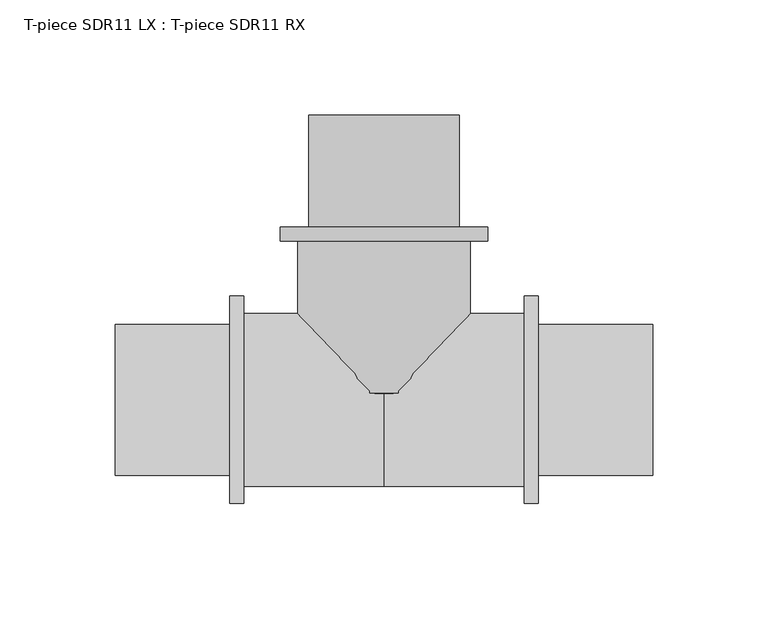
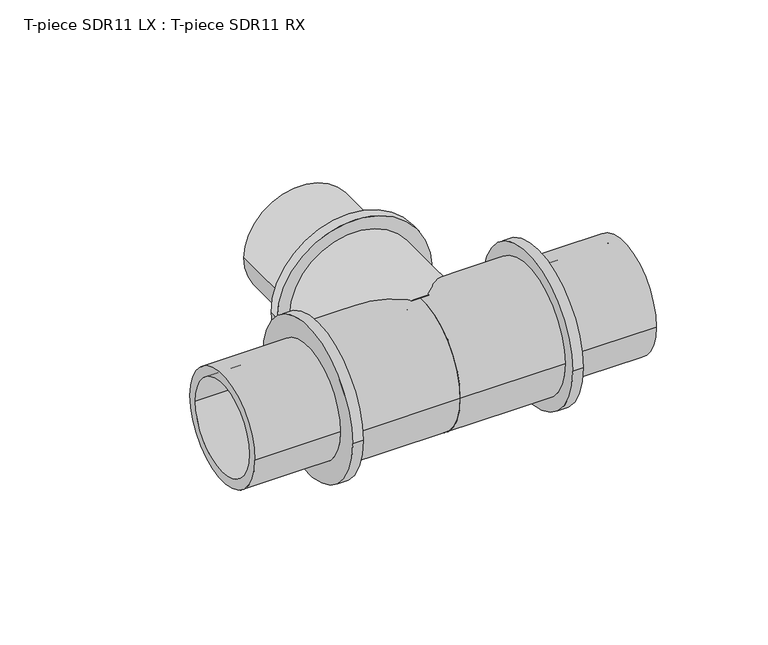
"""IFC4 building model written with IfcOpenShell, lengths in millimetres: pipe fitting geometry, T-piece SDR11 LX : T-piece SDR11 RX."""

from ifc_helpers import new_model, si_unit, point, frame, origin, place, context, project, spatial, polyline, circle_curve, ellipse_curve, trimmed, source, transform, mapped, element, save
from ifc_brep_helpers import plane_surface, cylinder_surface, revolved_surface, advanced_brep


def t_piece_sdr11_lx_t_piece_sdr11_rx_ffd7d234(model_context):
    return source(origin(), model_context, "Body", "AdvancedBrep", [
        advanced_brep(
        [(37.5, 2.9400082, 0.0), (-37.5, 2.9400082, 0.0), (-37.5, 68.8, 0.0), (37.5, 68.8, 0.0), (27.0, 123.5, 0.0), (-27.0, 123.5, 0.0), (-27.0, 0.0, 0.0), (27.0, 0.0, 0.0), (32.7, 74.9, 0.0), (-32.7, 74.9, 0.0), (-32.7, 123.5, 0.0), (32.7, 123.5, 0.0), (45.0, 68.8, 0.0), (-45.0, 68.8, 0.0), (-45.0, 74.9, 0.0), (45.0, 74.9, 0.0)],
        [
            (0, 1, circle_curve(frame((0.0, 2.9400082, 0.0), z_axis=(0.0, 1.0, 0.0), x_axis=(-1.0, 0.0, 0.0)), 37.5)),
            (1, 2),
            (2, 3, circle_curve(frame((0.0, 68.8, 0.0), z_axis=(0.0, -1.0, 0.0), x_axis=(-1.0, 0.0, 0.0)), 37.5)),
            (3, 0),
            (4, 5, circle_curve(frame((0.0, 123.5, 0.0), z_axis=(0.0, 1.0, 0.0), x_axis=(-1.0, 0.0, 0.0)), 27.0)),
            (5, 6),
            (6, 7, circle_curve(frame((0.0, 0.0, 0.0), z_axis=(0.0, -1.0, 0.0), x_axis=(-1.0, 0.0, 0.0)), 27.0)),
            (7, 4),
            (8, 9, circle_curve(frame((0.0, 74.9, 0.0), z_axis=(0.0, 1.0, 0.0), x_axis=(-1.0, 0.0, 0.0)), 32.7)),
            (9, 10),
            (10, 11, circle_curve(frame((0.0, 123.5, 0.0), z_axis=(0.0, -1.0, 0.0), x_axis=(-1.0, 0.0, 0.0)), 32.7)),
            (11, 8),
            (12, 13, circle_curve(frame((0.0, 68.8, 0.0), z_axis=(0.0, 1.0, 0.0), x_axis=(-1.0, 0.0, 0.0)), 45.0)),
            (13, 14),
            (14, 15, circle_curve(frame((0.0, 74.9, 0.0), z_axis=(0.0, -1.0, 0.0), x_axis=(-1.0, 0.0, 0.0)), 45.0)),
            (15, 12),
            (12, 13, circle_curve(frame((0.0, 68.8, 0.0), z_axis=(0.0, -1.0, 0.0), x_axis=(1.0, 0.0, 0.0)), 45.0)),
            (2, 3, circle_curve(frame((0.0, 68.8, 0.0), z_axis=(0.0, 1.0, 0.0), x_axis=(1.0, 0.0, 0.0)), 37.5)),
            (1, 0, circle_curve(frame((0.0, 2.9400082, 0.0), z_axis=(0.0, 1.0, 0.0), x_axis=(1.0, 0.0, 0.0)), 37.5)),
            (5, 4, circle_curve(frame((0.0, 123.5, 0.0), z_axis=(0.0, 1.0, 0.0), x_axis=(1.0, 0.0, 0.0)), 27.0)),
            (7, 6, circle_curve(frame((0.0, 0.0, 0.0), z_axis=(0.0, -1.0, 0.0), x_axis=(1.0, 0.0, 0.0)), 27.0)),
            (10, 11, circle_curve(frame((0.0, 123.5, 0.0), z_axis=(0.0, 1.0, 0.0), x_axis=(1.0, 0.0, 0.0)), 32.7)),
            (9, 8, circle_curve(frame((0.0, 74.9, 0.0), z_axis=(0.0, 1.0, 0.0), x_axis=(1.0, 0.0, 0.0)), 32.7)),
            (14, 15, circle_curve(frame((0.0, 74.9, 0.0), z_axis=(0.0, 1.0, 0.0), x_axis=(1.0, 0.0, 0.0)), 45.0)),
            (6, 1, circle_curve(frame((-22.2462802, 37.197475, 0.0), z_axis=(0.0, 0.0, -1.0), x_axis=(0.0, -1.0, 0.0)), 37.5)),
            (0, 7, circle_curve(frame((22.2462802, 37.197475, 0.0), z_axis=(0.0, 0.0, -1.0), x_axis=(0.0, -1.0, 0.0)), 37.5)),
        ],
        [
            cylinder_surface(frame((0.0, 0.0, 0.0), z_axis=(0.0, -1.0, 0.0), x_axis=(-1.0, 0.0, 0.0)), 37.5),
            revolved_surface(polyline([(-27.0, 0.0, 0.0), (-27.0, 123.5, 0.0)]), (0.0, 0.0, 0.0), (0.0, -1.0, 0.0)),
            cylinder_surface(frame((0.0, 0.0, 0.0), z_axis=(0.0, -1.0, 0.0), x_axis=(-1.0, 0.0, 0.0)), 32.7),
            cylinder_surface(frame((0.0, 0.0, 0.0), z_axis=(0.0, -1.0, 0.0), x_axis=(-1.0, 0.0, 0.0)), 45.0),
            plane_surface(frame((0.0, 68.8, 0.0), z_axis=(0.0, -1.0, 0.0), x_axis=(1.0, 0.0, 0.0))),
            cylinder_surface(frame((0.0, 0.0, 0.0), z_axis=(0.0, -1.0, 0.0), x_axis=(1.0, 0.0, 0.0)), 37.5),
            revolved_surface(polyline([(27.0, 0.0, 0.0), (27.0, 123.5, 0.0)]), (0.0, 0.0, 0.0), (0.0, -1.0, 0.0)),
            plane_surface(frame((0.0, 123.5, 0.0), z_axis=(0.0, 1.0, 0.0), x_axis=(1.0, 0.0, 0.0))),
            cylinder_surface(frame((0.0, 0.0, 0.0), z_axis=(0.0, -1.0, 0.0), x_axis=(1.0, 0.0, 0.0)), 32.7),
            plane_surface(frame((0.0, 74.9, 0.0), z_axis=(0.0, 1.0, 0.0), x_axis=(1.0, 0.0, 0.0))),
            cylinder_surface(frame((0.0, 0.0, 0.0), z_axis=(0.0, -1.0, 0.0), x_axis=(1.0, 0.0, 0.0)), 45.0),
            revolved_surface(trimmed(ellipse_curve(frame((-22.2462802, 37.197475, 0.0), z_axis=(0.0, 0.0, 1.0), x_axis=(0.0, -1.0, 0.0)), 37.5, 37.5), [point((-37.5, 2.9400082, 0.0))], [point((-27.0, 0.0, 0.0))], True, "CARTESIAN"), (0.0, 0.0, 0.0), (0.0, -1.0, 0.0)),
            revolved_surface(trimmed(ellipse_curve(frame((22.2462802, 37.197475, 0.0), z_axis=(0.0, 0.0, -1.0), x_axis=(0.0, -1.0, 0.0)), 37.5, 37.5), [point((37.5, 2.9400082, 0.0))], [point((27.0, 0.0, 0.0))], True, "CARTESIAN"), (0.0, 0.0, 0.0), (0.0, -1.0, 0.0)),
        ],
        [
            (0, [[1, 2, 3, 4]]),
            (1, [[5, 6, 7, 8]]),
            (2, [[9, 10, 11, 12]]),
            (3, [[13, 14, 15, 16]]),
            (4, [[17, -13], [18, -3]]),
            (5, [[19, -4, -18, -2]]),
            (6, [[20, -8, 21, -6]]),
            (7, [[22, -11], [-20, -5]]),
            (8, [[23, -12, -22, -10]]),
            (9, [[24, -15], [-23, -9]]),
            (10, [[-17, -16, -24, -14]]),
            (11, [[-7, 25, -1, 26]]),
            (12, [[-21, -26, -19, -25]]),
        ],
    ),
        advanced_brep(
        [(60.8, 37.5, 0.0), (60.8, -37.5, 0.0), (0.0, -37.5, 0.0), (0.0, 37.5, 0.0), (0.0, 27.0, 0.0), (0.0, -27.0, 0.0), (116.5, -27.0, 0.0), (116.5, 27.0, 0.0), (116.5, 32.7, 0.0), (116.5, -32.7, 0.0), (66.9, -32.7, 0.0), (66.9, 32.7, 0.0), (66.9, 45.0, 0.0), (66.9, -45.0, 0.0), (60.8, -45.0, 0.0), (60.8, 45.0, 0.0)],
        [
            (0, 1, circle_curve(frame((60.8, 0.0, 0.0), z_axis=(-1.0, 0.0, 0.0), x_axis=(0.0, -1.0, 0.0)), 37.5)),
            (1, 2),
            (2, 3, circle_curve(frame((0.0, 0.0, 0.0), z_axis=(1.0, 0.0, 0.0), x_axis=(0.0, -1.0, 0.0)), 37.5)),
            (3, 0),
            (4, 5, circle_curve(frame((0.0, 0.0, 0.0), z_axis=(-1.0, 0.0, 0.0), x_axis=(0.0, -1.0, 0.0)), 27.0)),
            (5, 6),
            (6, 7, circle_curve(frame((116.5, 0.0, 0.0), z_axis=(1.0, 0.0, 0.0), x_axis=(0.0, -1.0, 0.0)), 27.0)),
            (7, 4),
            (8, 9, circle_curve(frame((116.5, 0.0, 0.0), z_axis=(-1.0, 0.0, 0.0), x_axis=(0.0, -1.0, 0.0)), 32.7)),
            (9, 10),
            (10, 11, circle_curve(frame((66.9, 0.0, 0.0), z_axis=(1.0, 0.0, 0.0), x_axis=(0.0, -1.0, 0.0)), 32.7)),
            (11, 8),
            (12, 13, circle_curve(frame((66.9, 0.0, 0.0), z_axis=(-1.0, 0.0, 0.0), x_axis=(0.0, -1.0, 0.0)), 45.0)),
            (13, 14),
            (14, 15, circle_curve(frame((60.8, 0.0, 0.0), z_axis=(1.0, 0.0, 0.0), x_axis=(0.0, -1.0, 0.0)), 45.0)),
            (15, 12),
            (14, 15, circle_curve(frame((60.8, 0.0, 0.0), z_axis=(-1.0, 0.0, 0.0), x_axis=(0.0, 1.0, 0.0)), 45.0)),
            (0, 1, circle_curve(frame((60.8, 0.0, 0.0), z_axis=(1.0, 0.0, 0.0), x_axis=(0.0, 1.0, 0.0)), 37.5)),
            (3, 2, circle_curve(frame((0.0, 0.0, 0.0), z_axis=(1.0, 0.0, 0.0), x_axis=(0.0, 1.0, 0.0)), 37.5)),
            (4, 5, circle_curve(frame((0.0, 0.0, 0.0), z_axis=(1.0, 0.0, 0.0), x_axis=(0.0, 1.0, 0.0)), 27.0)),
            (7, 6, circle_curve(frame((116.5, 0.0, 0.0), z_axis=(1.0, 0.0, 0.0), x_axis=(0.0, 1.0, 0.0)), 27.0)),
            (8, 9, circle_curve(frame((116.5, 0.0, 0.0), z_axis=(1.0, 0.0, 0.0), x_axis=(0.0, 1.0, 0.0)), 32.7)),
            (11, 10, circle_curve(frame((66.9, 0.0, 0.0), z_axis=(1.0, 0.0, 0.0), x_axis=(0.0, 1.0, 0.0)), 32.7)),
            (12, 13, circle_curve(frame((66.9, 0.0, 0.0), z_axis=(1.0, 0.0, 0.0), x_axis=(0.0, 1.0, 0.0)), 45.0)),
        ],
        [
            cylinder_surface(frame((0.0, 0.0, 0.0), z_axis=(1.0, 0.0, 0.0), x_axis=(0.0, -1.0, 0.0)), 37.5),
            revolved_surface(polyline([(116.5, -27.0, 0.0), (0.0, -27.0, 0.0)]), (0.0, 0.0, 0.0), (1.0, 0.0, 0.0)),
            cylinder_surface(frame((0.0, 0.0, 0.0), z_axis=(1.0, 0.0, 0.0), x_axis=(0.0, -1.0, 0.0)), 32.7),
            cylinder_surface(frame((0.0, 0.0, 0.0), z_axis=(1.0, 0.0, 0.0), x_axis=(0.0, -1.0, 0.0)), 45.0),
            plane_surface(frame((60.8, 0.0, 0.0), z_axis=(-1.0, 0.0, 0.0), x_axis=(0.0, 1.0, 0.0))),
            cylinder_surface(frame((0.0, 0.0, 0.0), z_axis=(1.0, 0.0, 0.0), x_axis=(0.0, 1.0, 0.0)), 37.5),
            plane_surface(frame((0.0, 0.0, 0.0), z_axis=(-1.0, 0.0, 0.0), x_axis=(0.0, 1.0, 0.0))),
            revolved_surface(polyline([(116.5, 27.0, 0.0), (0.0, 27.0, 0.0)]), (0.0, 0.0, 0.0), (1.0, 0.0, 0.0)),
            plane_surface(frame((116.5, 0.0, 0.0), z_axis=(1.0, 0.0, 0.0), x_axis=(0.0, 1.0, 0.0))),
            cylinder_surface(frame((0.0, 0.0, 0.0), z_axis=(1.0, 0.0, 0.0), x_axis=(0.0, 1.0, 0.0)), 32.7),
            plane_surface(frame((66.9, 0.0, 0.0), z_axis=(1.0, 0.0, 0.0), x_axis=(0.0, 1.0, 0.0))),
            cylinder_surface(frame((0.0, 0.0, 0.0), z_axis=(1.0, 0.0, 0.0), x_axis=(0.0, 1.0, 0.0)), 45.0),
        ],
        [
            (0, [[1, 2, 3, 4]]),
            (1, [[5, 6, 7, 8]]),
            (2, [[9, 10, 11, 12]]),
            (3, [[13, 14, 15, 16]]),
            (4, [[17, -15], [18, -1]]),
            (5, [[-18, -4, 19, -2]]),
            (6, [[-19, -3], [20, -5]]),
            (7, [[-20, -8, 21, -6]]),
            (8, [[22, -9], [-21, -7]]),
            (9, [[-22, -12, 23, -10]]),
            (10, [[24, -13], [-23, -11]]),
            (11, [[-24, -16, -17, -14]]),
        ],
    ),
        advanced_brep(
        [(0.0, 37.5, 0.0), (0.0, -37.5, 0.0), (-60.8, -37.5, 0.0), (-60.8, 37.5, 0.0), (-116.5, 27.0, 0.0), (-116.5, -27.0, 0.0), (0.0, -27.0, 0.0), (0.0, 27.0, 0.0), (-66.9, 32.7, 0.0), (-66.9, -32.7, 0.0), (-116.5, -32.7, 0.0), (-116.5, 32.7, 0.0), (-60.8, 45.0, 0.0), (-60.8, -45.0, 0.0), (-66.9, -45.0, 0.0), (-66.9, 45.0, 0.0)],
        [
            (0, 1, circle_curve(frame((0.0, 0.0, 0.0), z_axis=(-1.0, 0.0, 0.0), x_axis=(0.0, -1.0, 0.0)), 37.5)),
            (1, 2),
            (2, 3, circle_curve(frame((-60.8, 0.0, 0.0), z_axis=(1.0, 0.0, 0.0), x_axis=(0.0, -1.0, 0.0)), 37.5)),
            (3, 0),
            (4, 5, circle_curve(frame((-116.5, 0.0, 0.0), z_axis=(-1.0, 0.0, 0.0), x_axis=(0.0, -1.0, 0.0)), 27.0)),
            (5, 6),
            (6, 7, circle_curve(frame((0.0, 0.0, 0.0), z_axis=(1.0, 0.0, 0.0), x_axis=(0.0, -1.0, 0.0)), 27.0)),
            (7, 4),
            (8, 9, circle_curve(frame((-66.9, 0.0, 0.0), z_axis=(-1.0, 0.0, 0.0), x_axis=(0.0, -1.0, 0.0)), 32.7)),
            (9, 10),
            (10, 11, circle_curve(frame((-116.5, 0.0, 0.0), z_axis=(1.0, 0.0, 0.0), x_axis=(0.0, -1.0, 0.0)), 32.7)),
            (11, 8),
            (12, 13, circle_curve(frame((-60.8, 0.0, 0.0), z_axis=(-1.0, 0.0, 0.0), x_axis=(0.0, -1.0, 0.0)), 45.0)),
            (13, 14),
            (14, 15, circle_curve(frame((-66.9, 0.0, 0.0), z_axis=(1.0, 0.0, 0.0), x_axis=(0.0, -1.0, 0.0)), 45.0)),
            (15, 12),
            (12, 13, circle_curve(frame((-60.8, 0.0, 0.0), z_axis=(1.0, 0.0, 0.0), x_axis=(0.0, 1.0, 0.0)), 45.0)),
            (2, 3, circle_curve(frame((-60.8, 0.0, 0.0), z_axis=(-1.0, 0.0, 0.0), x_axis=(0.0, 1.0, 0.0)), 37.5)),
            (1, 0, circle_curve(frame((0.0, 0.0, 0.0), z_axis=(-1.0, 0.0, 0.0), x_axis=(0.0, 1.0, 0.0)), 37.5)),
            (6, 7, circle_curve(frame((0.0, 0.0, 0.0), z_axis=(-1.0, 0.0, 0.0), x_axis=(0.0, 1.0, 0.0)), 27.0)),
            (5, 4, circle_curve(frame((-116.5, 0.0, 0.0), z_axis=(-1.0, 0.0, 0.0), x_axis=(0.0, 1.0, 0.0)), 27.0)),
            (10, 11, circle_curve(frame((-116.5, 0.0, 0.0), z_axis=(-1.0, 0.0, 0.0), x_axis=(0.0, 1.0, 0.0)), 32.7)),
            (9, 8, circle_curve(frame((-66.9, 0.0, 0.0), z_axis=(-1.0, 0.0, 0.0), x_axis=(0.0, 1.0, 0.0)), 32.7)),
            (14, 15, circle_curve(frame((-66.9, 0.0, 0.0), z_axis=(-1.0, 0.0, 0.0), x_axis=(0.0, 1.0, 0.0)), 45.0)),
        ],
        [
            cylinder_surface(frame((0.0, 0.0, 0.0), z_axis=(1.0, 0.0, 0.0), x_axis=(0.0, -1.0, 0.0)), 37.5),
            revolved_surface(polyline([(0.0, -27.0, 0.0), (-116.5, -27.0, 0.0)]), (0.0, 0.0, 0.0), (1.0, 0.0, 0.0)),
            cylinder_surface(frame((0.0, 0.0, 0.0), z_axis=(1.0, 0.0, 0.0), x_axis=(0.0, -1.0, 0.0)), 32.7),
            cylinder_surface(frame((0.0, 0.0, 0.0), z_axis=(1.0, 0.0, 0.0), x_axis=(0.0, -1.0, 0.0)), 45.0),
            plane_surface(frame((-60.8, 0.0, 0.0), z_axis=(1.0, 0.0, 0.0), x_axis=(0.0, 1.0, 0.0))),
            cylinder_surface(frame((0.0, 0.0, 0.0), z_axis=(1.0, 0.0, 0.0), x_axis=(0.0, 1.0, 0.0)), 37.5),
            plane_surface(frame((0.0, 0.0, 0.0), z_axis=(1.0, 0.0, 0.0), x_axis=(0.0, 1.0, 0.0))),
            revolved_surface(polyline([(0.0, 27.0, 0.0), (-116.5, 27.0, 0.0)]), (0.0, 0.0, 0.0), (1.0, 0.0, 0.0)),
            plane_surface(frame((-116.5, 0.0, 0.0), z_axis=(-1.0, 0.0, 0.0), x_axis=(0.0, 1.0, 0.0))),
            cylinder_surface(frame((0.0, 0.0, 0.0), z_axis=(1.0, 0.0, 0.0), x_axis=(0.0, 1.0, 0.0)), 32.7),
            plane_surface(frame((-66.9, 0.0, 0.0), z_axis=(-1.0, 0.0, 0.0), x_axis=(0.0, 1.0, 0.0))),
            cylinder_surface(frame((0.0, 0.0, 0.0), z_axis=(1.0, 0.0, 0.0), x_axis=(0.0, 1.0, 0.0)), 45.0),
        ],
        [
            (0, [[1, 2, 3, 4]]),
            (1, [[5, 6, 7, 8]]),
            (2, [[9, 10, 11, 12]]),
            (3, [[13, 14, 15, 16]]),
            (4, [[17, -13], [18, -3]]),
            (5, [[19, -4, -18, -2]]),
            (6, [[-19, -1], [20, -7]]),
            (7, [[21, -8, -20, -6]]),
            (8, [[22, -11], [-21, -5]]),
            (9, [[23, -12, -22, -10]]),
            (10, [[24, -15], [-23, -9]]),
            (11, [[-17, -16, -24, -14]]),
        ],
    ),
    ])


if __name__ == "__main__":
    model = new_model("IFC4")
    model_context = context("Model", 3, world=origin())
    ifc_project = project(units=[si_unit("LENGTHUNIT", "METRE", prefix="MILLI")], contexts=[model_context])
    site = spatial("IfcSite", under=ifc_project)
    building = spatial("IfcBuilding", under=site)
    placement = place(None, origin())
    t_piece_sdr11_lx_t_piece_sdr11_rx_shape = t_piece_sdr11_lx_t_piece_sdr11_rx_ffd7d234(model_context)
    element("IfcPipeFitting", 1, ObjectType="T-piece SDR11 LX : T-piece SDR11 RX", at=placement, inside=building, context=model_context, shape_type="MappedRepresentation", body=[
        mapped(t_piece_sdr11_lx_t_piece_sdr11_rx_shape, transform((0.0, 0.0, 0.0), x_axis=(1.0, 0.0, 0.0), y_axis=(0.0, 1.0, 0.0), z_axis=(0.0, 0.0, 1.0))),
    ])
    save(model, "model.ifc")
